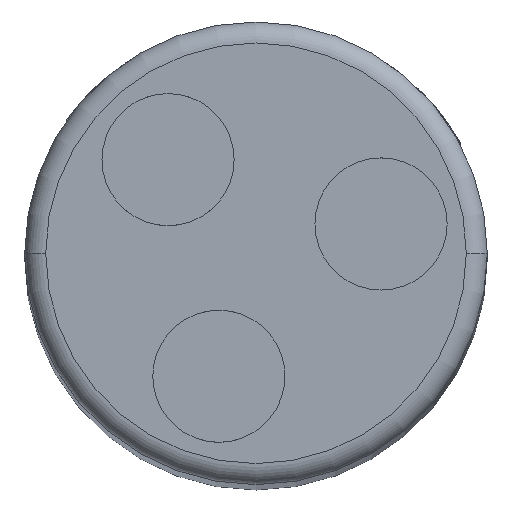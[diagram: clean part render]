
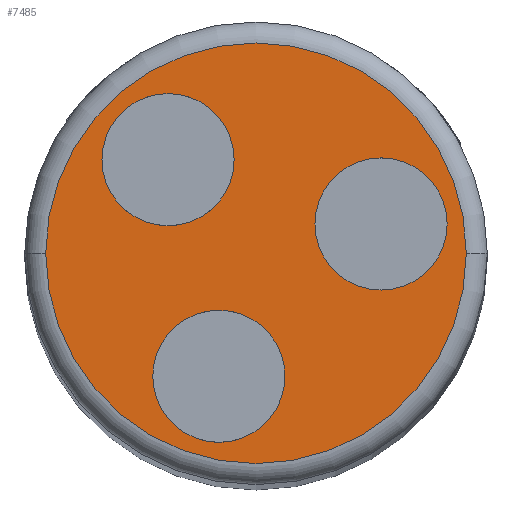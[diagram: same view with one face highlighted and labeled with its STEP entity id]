
A CAD part, top view. The second image highlights one B-rep face of the part: STEP entity #7485.
In plain terms, the highlighted planar face has unit normal (0, 0, 1).
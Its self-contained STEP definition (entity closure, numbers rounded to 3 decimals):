
#1841=CARTESIAN_POINT('',(0.,0.,73.75));
#1842=DIRECTION('',(0.,0.,1.));
#1843=DIRECTION('',(-1.,0.,0.));
#1844=AXIS2_PLACEMENT_3D('',#1841,#1842,#1843);
#1846=CARTESIAN_POINT('',(0.,0.,73.75));
#1847=DIRECTION('',(0.,0.,1.));
#1848=DIRECTION('',(1.,0.,0.));
#1849=AXIS2_PLACEMENT_3D('',#1846,#1847,#1848);
#1851=CARTESIAN_POINT('',(-4.181,4.453,73.75));
#1852=DIRECTION('',(0.,0.,1.));
#1853=DIRECTION('',(1.,0.,0.));
#1854=AXIS2_PLACEMENT_3D('',#1851,#1852,#1853);
#1856=CARTESIAN_POINT('',(-4.181,4.453,73.75));
#1857=DIRECTION('',(0.,0.,1.));
#1858=DIRECTION('',(-1.,0.,0.));
#1859=AXIS2_PLACEMENT_3D('',#1856,#1857,#1858);
#1861=CARTESIAN_POINT('',(-1.766,-5.847,73.75));
#1862=DIRECTION('',(0.,0.,1.));
#1863=DIRECTION('',(1.,0.,0.));
#1864=AXIS2_PLACEMENT_3D('',#1861,#1862,#1863);
#1866=CARTESIAN_POINT('',(-1.766,-5.847,73.75));
#1867=DIRECTION('',(0.,0.,1.));
#1868=DIRECTION('',(-1.,0.,0.));
#1869=AXIS2_PLACEMENT_3D('',#1866,#1867,#1868);
#1871=CARTESIAN_POINT('',(5.947,1.394,73.75));
#1872=DIRECTION('',(0.,0.,1.));
#1873=DIRECTION('',(1.,0.,0.));
#1874=AXIS2_PLACEMENT_3D('',#1871,#1872,#1873);
#1876=CARTESIAN_POINT('',(5.947,1.394,73.75));
#1877=DIRECTION('',(0.,0.,1.));
#1878=DIRECTION('',(-1.,0.,0.));
#1879=AXIS2_PLACEMENT_3D('',#1876,#1877,#1878);
#5575=CARTESIAN_POINT('',(-10.,0.,73.75));
#5576=CARTESIAN_POINT('',(10.,0.,73.75));
#5577=VERTEX_POINT('',#5575);
#5578=VERTEX_POINT('',#5576);
#5603=CARTESIAN_POINT('',(-1.039,4.453,73.75));
#5604=CARTESIAN_POINT('',(-7.323,4.453,73.75));
#5605=VERTEX_POINT('',#5603);
#5606=VERTEX_POINT('',#5604);
#5607=CARTESIAN_POINT('',(1.376,-5.847,73.75));
#5608=CARTESIAN_POINT('',(-4.909,-5.847,73.75));
#5609=VERTEX_POINT('',#5607);
#5610=VERTEX_POINT('',#5608);
#5611=CARTESIAN_POINT('',(9.09,1.394,73.75));
#5612=CARTESIAN_POINT('',(2.805,1.394,73.75));
#5613=VERTEX_POINT('',#5611);
#5614=VERTEX_POINT('',#5612);
#7457=CARTESIAN_POINT('',(0.,0.,73.75));
#7458=DIRECTION('',(0.,0.,1.));
#7459=DIRECTION('',(1.,0.,0.));
#7460=AXIS2_PLACEMENT_3D('',#7457,#7458,#7459);
#7461=PLANE('',#7460);
#7463=ORIENTED_EDGE('',*,*,#7462,.F.);
#7464=ORIENTED_EDGE('',*,*,#7447,.F.);
#7465=EDGE_LOOP('',(#7463,#7464));
#7466=FACE_OUTER_BOUND('',#7465,.F.);
#7468=ORIENTED_EDGE('',*,*,#7467,.T.);
#7470=ORIENTED_EDGE('',*,*,#7469,.T.);
#7471=EDGE_LOOP('',(#7468,#7470));
#7472=FACE_BOUND('',#7471,.F.);
#7474=ORIENTED_EDGE('',*,*,#7473,.T.);
#7476=ORIENTED_EDGE('',*,*,#7475,.T.);
#7477=EDGE_LOOP('',(#7474,#7476));
#7478=FACE_BOUND('',#7477,.F.);
#7480=ORIENTED_EDGE('',*,*,#7479,.T.);
#7482=ORIENTED_EDGE('',*,*,#7481,.T.);
#7483=EDGE_LOOP('',(#7480,#7482));
#7484=FACE_BOUND('',#7483,.F.);
#7485=ADVANCED_FACE('',(#7466,#7472,#7478,#7484),#7461,.T.);
#1845=CIRCLE('',#1844,10.);
#1850=CIRCLE('',#1849,10.);
#1855=CIRCLE('',#1854,3.142);
#1860=CIRCLE('',#1859,3.142);
#1865=CIRCLE('',#1864,3.142);
#1870=CIRCLE('',#1869,3.142);
#1875=CIRCLE('',#1874,3.142);
#1880=CIRCLE('',#1879,3.142);
#7447=EDGE_CURVE('',#5578,#5577,#1850,.T.);
#7462=EDGE_CURVE('',#5577,#5578,#1845,.T.);
#7467=EDGE_CURVE('',#5605,#5606,#1855,.T.);
#7469=EDGE_CURVE('',#5606,#5605,#1860,.T.);
#7473=EDGE_CURVE('',#5609,#5610,#1865,.T.);
#7475=EDGE_CURVE('',#5610,#5609,#1870,.T.);
#7479=EDGE_CURVE('',#5613,#5614,#1875,.T.);
#7481=EDGE_CURVE('',#5614,#5613,#1880,.T.);
